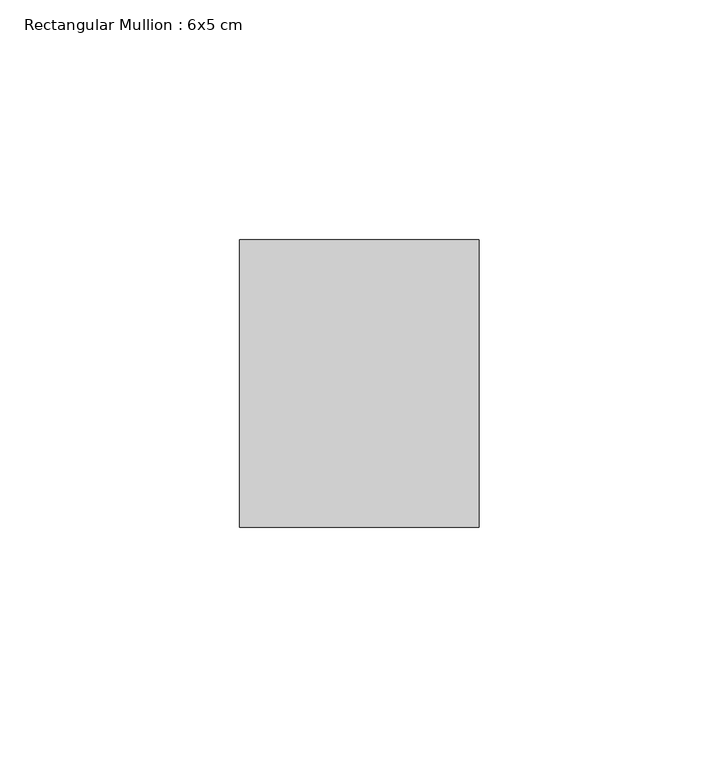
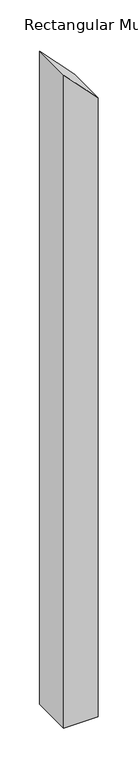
"""IFC4 building model written with IfcOpenShell, lengths in millimetres: member geometry, Rectangular Mullion : 6x5 cm."""

from ifc_helpers import new_model, si_unit, frame, origin, place, context, project, spatial, polyline, outline, extrude, source, transform, mapped, element, save


def rectangular_mullion_6x5_cm_42f8e326(model_context):
    return source(origin(), model_context, "Body", "SweptSolid", [
        extrude(outline(polyline([(-98.3849277, 25.0), (-46.1833952, -25.0), (-1044.0306511, -25.0), (-1044.0306511, 25.0), (-98.3849277, 25.0)])), frame((0.0, 20.0, 0.0), z_axis=(0.0, 1.0, 0.0), x_axis=(0.0, 0.0, 1.0)), (0.0, 0.0, 1.0), 60.0),
    ])


if __name__ == "__main__":
    model = new_model("IFC4")
    model_context = context("Model", 3, world=origin())
    ifc_project = project(units=[si_unit("LENGTHUNIT", "METRE", prefix="MILLI")], contexts=[model_context])
    site = spatial("IfcSite", under=ifc_project)
    building = spatial("IfcBuilding", under=site)
    placement = place(None, origin())
    rectangular_mullion_6x5_cm_shape = rectangular_mullion_6x5_cm_42f8e326(model_context)
    element("IfcMember", 1, ObjectType="Rectangular Mullion : 6x5 cm", at=placement, inside=building, context=model_context, shape_type="MappedRepresentation", body=[
        mapped(rectangular_mullion_6x5_cm_shape, transform((0.0, 0.0, 0.0), x_axis=(1.0, 0.0, 0.0), y_axis=(0.0, 1.0, 0.0), z_axis=(0.0, 0.0, 1.0))),
    ])
    save(model, "model.ifc")
